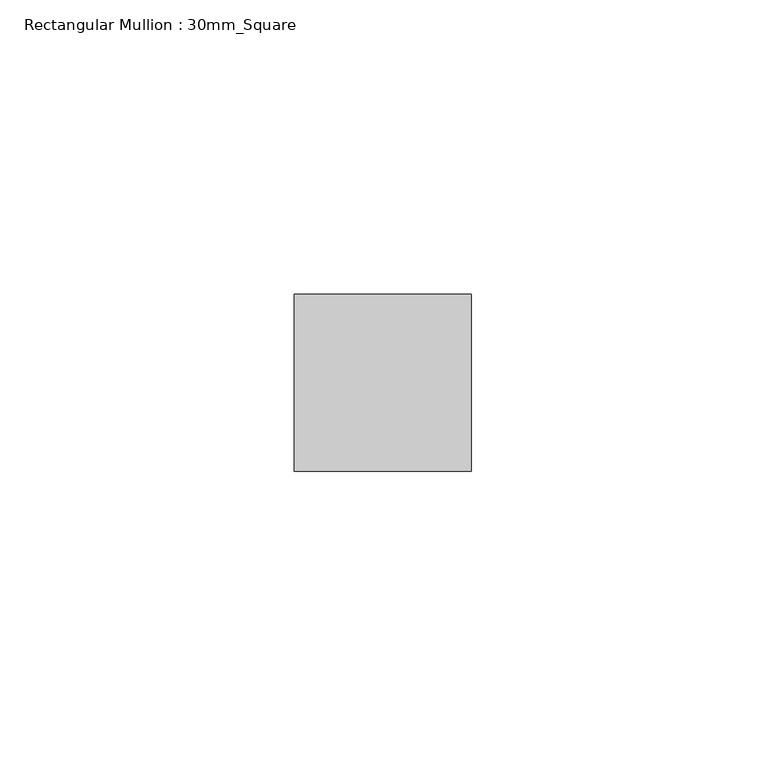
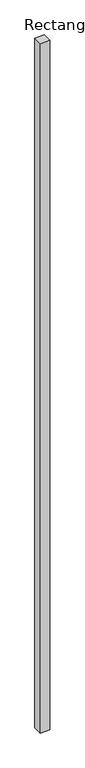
"""IFC4 building model written with IfcOpenShell, lengths in millimetres: member geometry, Rectangular Mullion : 30mm_Square."""

from ifc_helpers import new_model, si_unit, frame, origin, place, context, project, spatial, polyline, outline, extrude, source, transform, mapped, element, save


def rectangular_mullion_30mm_square_3b7cd04d(model_context):
    return source(origin(), model_context, "Body", "SweptSolid", [
        extrude(outline(polyline([(15.0, 2.5), (15.0, -27.5), (-15.0, -27.5), (-15.0, 2.5), (15.0, 2.5)])), frame((0.0, 0.0, -2300.0), z_axis=(0.0, 0.0, 1.0), x_axis=(1.0, 0.0, 0.0)), (0.0, 0.0, 1.0), 2300.0),
    ])


if __name__ == "__main__":
    model = new_model("IFC4")
    model_context = context("Model", 3, world=origin())
    ifc_project = project(units=[si_unit("LENGTHUNIT", "METRE", prefix="MILLI")], contexts=[model_context])
    site = spatial("IfcSite", under=ifc_project)
    building = spatial("IfcBuilding", under=site)
    placement = place(None, origin())
    rectangular_mullion_30mm_square_shape = rectangular_mullion_30mm_square_3b7cd04d(model_context)
    element("IfcMember", 1, ObjectType="Rectangular Mullion : 30mm_Square", at=placement, inside=building, context=model_context, shape_type="MappedRepresentation", body=[
        mapped(rectangular_mullion_30mm_square_shape, transform((0.0, 0.0, 0.0), x_axis=(1.0, 0.0, 0.0), y_axis=(0.0, 1.0, 0.0), z_axis=(0.0, 0.0, 1.0))),
    ])
    save(model, "model.ifc")
